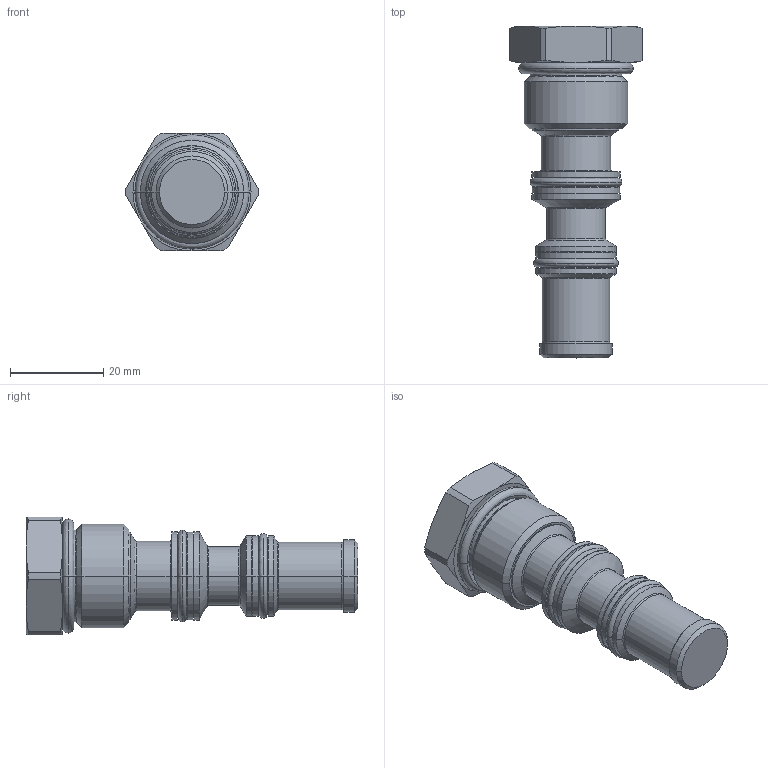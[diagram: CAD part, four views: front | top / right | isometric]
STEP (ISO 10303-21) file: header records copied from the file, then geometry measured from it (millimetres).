
FILE_DESCRIPTION((''),'2;1');
FILE_NAME('5242002_SW0001','2009-02-02T',('jcs'),(''),'PRO/ENGINEER BY PARAMETRIC TECHNOLOGY CORPORATION, 2008010','PRO/ENGINEER BY PARAMETRIC TECHNOLOGY CORPORATION, 2008010','');
FILE_SCHEMA(('CONFIG_CONTROL_DESIGN'));
Length unit declared in the file: inch
Products named in the file (1): 5242002_SW0001
Bounding box: 28.44 x 71.35 x 25.34 mm (x, y, z)
Volume: 19112.3 mm3; surface area: 7069.2 mm2
Topology: 4 solids, 4 shells, 130 faces, 284 edges, 168 vertices
Faces by surface type: cylinder 36, torus 25, cone 25, revolution 24, plane 20
Entity records: 4051 total; most frequent: CARTESIAN_POINT 1135, DIRECTION 630, ORIENTED_EDGE 568, EDGE_CURVE 284, AXIS2_PLACEMENT_3D 270, VERTEX_POINT 168, CIRCLE 164, EDGE_LOOP 142
